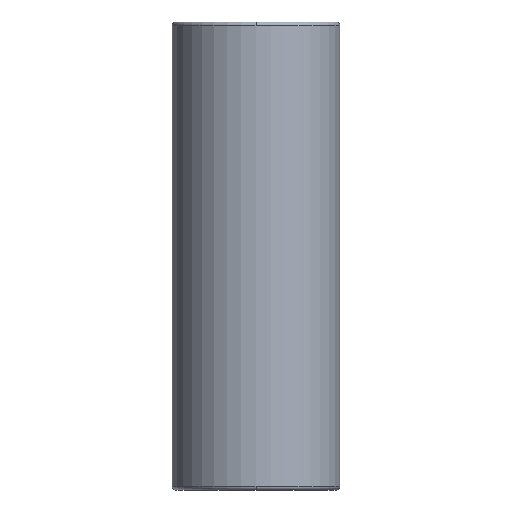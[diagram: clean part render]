
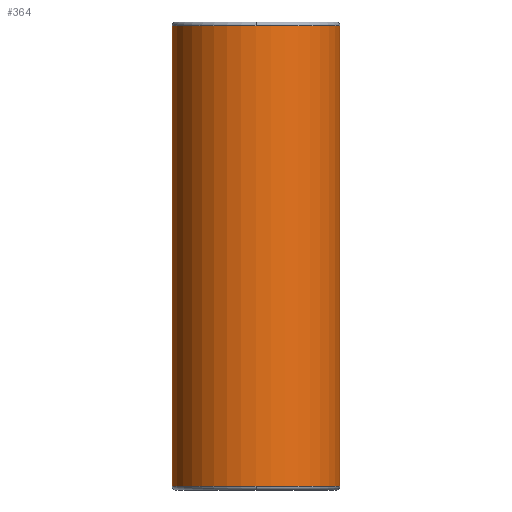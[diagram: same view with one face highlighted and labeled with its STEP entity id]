
A CAD part, front view. The second image highlights one B-rep face of the part: STEP entity #364.
In plain terms, the highlighted cylindrical face has radius 47.492 mm (diameter 94.984 mm), a partial arc.
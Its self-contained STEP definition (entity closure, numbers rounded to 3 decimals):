
#269=CARTESIAN_POINT('',(0.0,-47.492,263.0));
#270=VERTEX_POINT('',#269);
#296=CARTESIAN_POINT('',(-47.492,0.,263.0));
#297=VERTEX_POINT('',#296);
#305=CARTESIAN_POINT('',(0.0,0.,263.0));
#306=DIRECTION('',(0.0,0.0,1.0));
#307=DIRECTION('',(1.0,0.0,0.0));
#308=AXIS2_PLACEMENT_3D('',#305,#306,#307);
#309=CIRCLE('',#308,47.492);
#310=EDGE_CURVE('',#297,#270,#309,.T.);
#315=CARTESIAN_POINT('',(0.0,0.,132.5));
#316=DIRECTION('',(0.0,0.,1.0));
#317=DIRECTION('',(1.0,0.0,0.0));
#318=AXIS2_PLACEMENT_3D('',#315,#316,#317);
#319=CYLINDRICAL_SURFACE('',#318,47.492);
#320=CARTESIAN_POINT('',(47.492,0.,263.0));
#321=VERTEX_POINT('',#320);
#322=CARTESIAN_POINT('',(47.492,0.,2.));
#323=VERTEX_POINT('',#322);
#324=CARTESIAN_POINT('',(47.492,0.,263.0));
#325=DIRECTION('',(0.0,0.0,-1.0));
#326=VECTOR('',#325,261.0);
#327=LINE('',#324,#326);
#328=EDGE_CURVE('',#321,#323,#327,.T.);
#329=ORIENTED_EDGE('',*,*,#328,.F.);
#330=CARTESIAN_POINT('',(0.0,0.,263.0));
#331=DIRECTION('',(0.0,0.0,1.0));
#332=DIRECTION('',(1.0,0.0,0.0));
#333=AXIS2_PLACEMENT_3D('',#330,#331,#332);
#334=CIRCLE('',#333,47.492);
#335=EDGE_CURVE('',#270,#321,#334,.T.);
#336=ORIENTED_EDGE('',*,*,#335,.F.);
#337=ORIENTED_EDGE('',*,*,#310,.F.);
#338=CARTESIAN_POINT('',(-47.492,0.,2.0));
#339=VERTEX_POINT('',#338);
#340=CARTESIAN_POINT('',(-47.492,0.,263.0));
#341=DIRECTION('',(0.0,0.0,-1.0));
#342=VECTOR('',#341,261.0);
#343=LINE('',#340,#342);
#344=EDGE_CURVE('',#297,#339,#343,.T.);
#345=ORIENTED_EDGE('',*,*,#344,.T.);
#346=CARTESIAN_POINT('',(0.0,-47.492,2.));
#347=VERTEX_POINT('',#346);
#348=CARTESIAN_POINT('',(0.0,0.,2.0));
#349=DIRECTION('',(0.0,0.0,1.0));
#350=DIRECTION('',(1.0,0.0,0.0));
#351=AXIS2_PLACEMENT_3D('',#348,#349,#350);
#352=CIRCLE('',#351,47.492);
#353=EDGE_CURVE('',#339,#347,#352,.T.);
#354=ORIENTED_EDGE('',*,*,#353,.T.);
#355=CARTESIAN_POINT('',(0.0,0.,2.0));
#356=DIRECTION('',(0.0,0.0,1.0));
#357=DIRECTION('',(1.0,0.0,0.0));
#358=AXIS2_PLACEMENT_3D('',#355,#356,#357);
#359=CIRCLE('',#358,47.492);
#360=EDGE_CURVE('',#347,#323,#359,.T.);
#361=ORIENTED_EDGE('',*,*,#360,.T.);
#362=EDGE_LOOP('',(#329,#336,#337,#345,#354,#361));
#363=FACE_OUTER_BOUND('',#362,.T.);
#364=ADVANCED_FACE('',(#363),#319,.T.);
